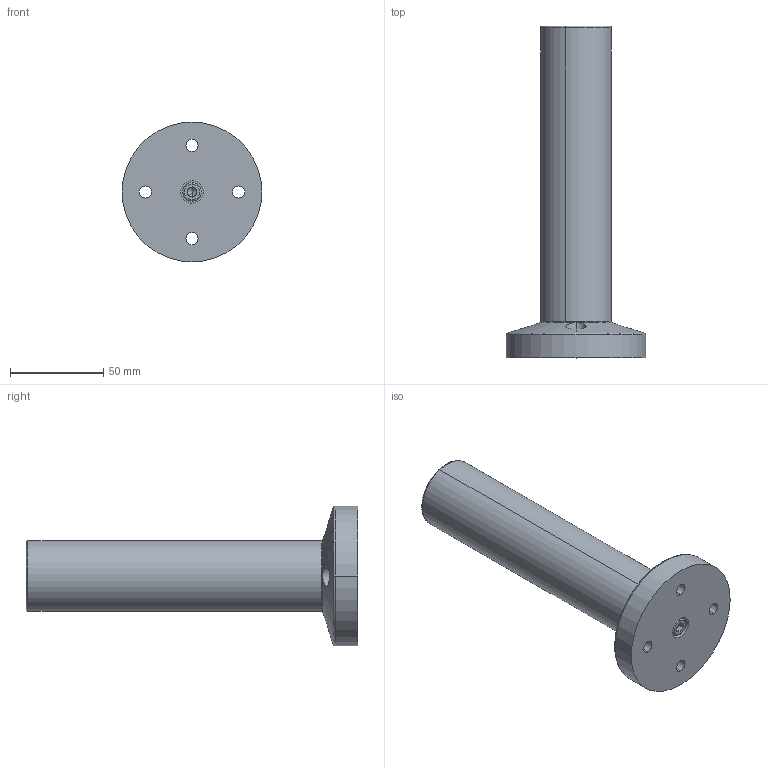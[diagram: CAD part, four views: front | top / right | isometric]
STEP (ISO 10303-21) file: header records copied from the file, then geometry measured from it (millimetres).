
FILE_DESCRIPTION (( 'STEP AP203' ), '1' );
FILE_NAME ('7MPR1178盓傅堵.STEP', '2019-12-09T05:38:11', ( '' ), ( '' ), 'SwSTEP 2.0', 'SolidWorks 2018', '' );
FILE_SCHEMA (( 'CONFIG_CONTROL_DESIGN' ));
Length unit declared in the file: millimetre
Products named in the file (1): 7MPR1178盓傅堵
Bounding box: 75 x 178 x 75 mm (x, y, z)
Volume: 128883 mm3; surface area: 56557.3 mm2
Topology: 6 solids, 6 shells, 137 faces, 302 edges, 186 vertices
Faces by surface type: cylinder 64, plane 39, cone 28, torus 6
Entity records: 4199 total; most frequent: CARTESIAN_POINT 948, DIRECTION 732, ORIENTED_EDGE 596, AXIS2_PLACEMENT_3D 304, EDGE_CURVE 298, VERTEX_POINT 186, EDGE_LOOP 174, CIRCLE 166
